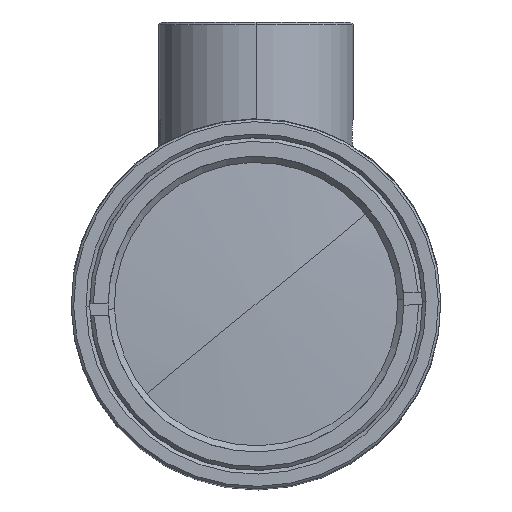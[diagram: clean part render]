
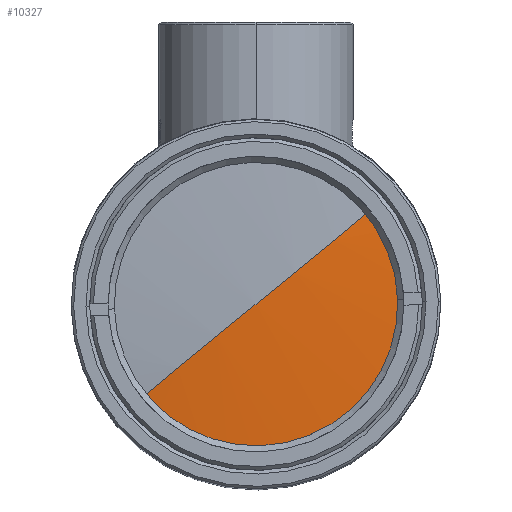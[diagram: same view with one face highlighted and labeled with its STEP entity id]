
A CAD part, top view. The second image highlights one B-rep face of the part: STEP entity #10327.
In plain terms, the highlighted spherical face has radius 148.3 mm.
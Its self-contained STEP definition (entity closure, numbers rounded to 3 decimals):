
#506 = SPHERICAL_SURFACE ( 'NONE', #24808, 148.3 ) ;
#748 = EDGE_CURVE ( 'NONE', #21658, #21850, #14221, .T. ) ;
#1453 = AXIS2_PLACEMENT_3D ( 'NONE', #17332, #5507, #3630 ) ;
#1957 = EDGE_CURVE ( 'NONE', #21850, #22487, #10219, .T. ) ;
#2163 = DIRECTION ( 'NONE',  ( 0.774, 0.634, 0. ) ) ;
#3630 = DIRECTION ( 'NONE',  ( -0.774, -0.634, 0. ) ) ;
#5393 = ORIENTED_EDGE ( 'NONE', *, *, #15624, .T. ) ;
#5507 = DIRECTION ( 'NONE',  ( -0.634, 0.774, 0. ) ) ;
#7494 = DIRECTION ( 'NONE',  ( -0.634, 0.774, 0. ) ) ;
#8182 = AXIS2_PLACEMENT_3D ( 'NONE', #8214, #16003, #14233 ) ;
#8214 = CARTESIAN_POINT ( 'NONE',  ( 0., 0., 140.833 ) ) ;
#9957 = DIRECTION ( 'NONE',  ( -0.634, 0.774, 0. ) ) ;
#10219 = CIRCLE ( 'NONE', #8182, 12.282 ) ;
#10327 = ADVANCED_FACE ( 'NONE', ( #22999 ), #506, .T. ) ;
#10620 = CARTESIAN_POINT ( 'NONE',  ( 9.5, 7.784, 140.833 ) ) ;
#10957 = AXIS2_PLACEMENT_3D ( 'NONE', #24977, #19242, #7494 ) ;
#14149 = VERTEX_POINT ( 'NONE', #21736 ) ;
#14221 = CIRCLE ( 'NONE', #10957, 12.282 ) ;
#14233 = DIRECTION ( 'NONE',  ( -0.634, 0.774, 0. ) ) ;
#15345 = CARTESIAN_POINT ( 'NONE',  ( 7.784, -9.5, 140.833 ) ) ;
#15624 = EDGE_CURVE ( 'NONE', #22487, #14149, #18109, .T. ) ;
#16003 = DIRECTION ( 'NONE',  ( 0., 0., 1. ) ) ;
#16190 = DIRECTION ( 'NONE',  ( 0.634, -0.774, 0. ) ) ;
#17332 = CARTESIAN_POINT ( 'NONE',  ( 0., 0., -6.957 ) ) ;
#17873 = CARTESIAN_POINT ( 'NONE',  ( 0., 0., -6.957 ) ) ;
#18086 = ORIENTED_EDGE ( 'NONE', *, *, #22023, .F. ) ;
#18109 = CIRCLE ( 'NONE', #20986, 148.3 ) ;
#18166 = ORIENTED_EDGE ( 'NONE', *, *, #748, .T. ) ;
#18763 = CARTESIAN_POINT ( 'NONE',  ( -9.5, -7.784, 140.833 ) ) ;
#19242 = DIRECTION ( 'NONE',  ( 0., 0., 1. ) ) ;
#19763 = CARTESIAN_POINT ( 'NONE',  ( 0., 0., -6.957 ) ) ;
#20986 = AXIS2_PLACEMENT_3D ( 'NONE', #19763, #16190, #23845 ) ;
#21658 = VERTEX_POINT ( 'NONE', #18763 ) ;
#21736 = CARTESIAN_POINT ( 'NONE',  ( 0., 0., 141.343 ) ) ;
#21850 = VERTEX_POINT ( 'NONE', #15345 ) ;
#21966 = ORIENTED_EDGE ( 'NONE', *, *, #1957, .T. ) ;
#22023 = EDGE_CURVE ( 'NONE', #21658, #14149, #23331, .T. ) ;
#22487 = VERTEX_POINT ( 'NONE', #10620 ) ;
#22999 = FACE_OUTER_BOUND ( 'NONE', #25068, .T. ) ;
#23331 = CIRCLE ( 'NONE', #1453, 148.3 ) ;
#23845 = DIRECTION ( 'NONE',  ( 0.774, 0.634, 0. ) ) ;
#24808 = AXIS2_PLACEMENT_3D ( 'NONE', #17873, #9957, #2163 ) ;
#24977 = CARTESIAN_POINT ( 'NONE',  ( 0., 0., 140.833 ) ) ;
#25068 = EDGE_LOOP ( 'NONE', ( #18086, #18166, #21966, #5393 ) ) ;
